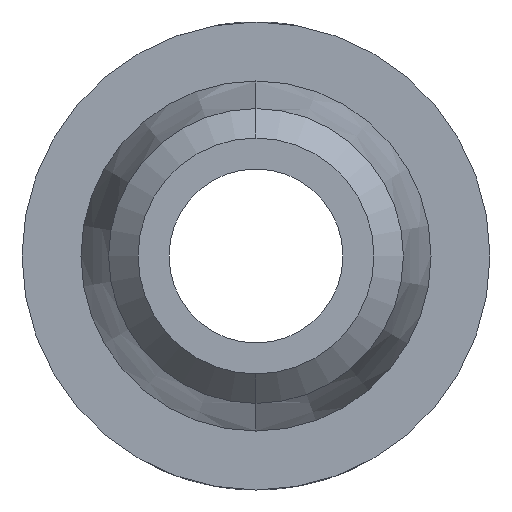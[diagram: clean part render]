
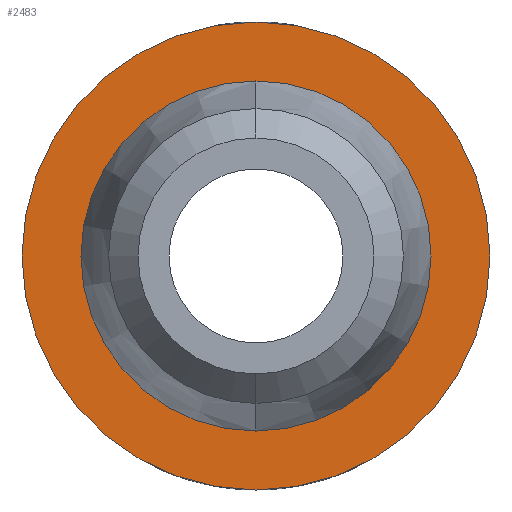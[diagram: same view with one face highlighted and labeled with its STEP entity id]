
A CAD part, left-side view. The second image highlights one B-rep face of the part: STEP entity #2483.
In plain terms, the highlighted planar face has unit normal (1, 0, 0).
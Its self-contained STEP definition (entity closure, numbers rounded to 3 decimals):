
#40=PLANE('',#2835);
#67=FACE_BOUND('',#315,.T.);
#218=FACE_OUTER_BOUND('',#314,.T.);
#314=EDGE_LOOP('',(#2036));
#315=EDGE_LOOP('',(#2037));
#906=CIRCLE('',#2836,3.175);
#907=CIRCLE('',#2837,2.375);
#1126=VERTEX_POINT('',#4597);
#1127=VERTEX_POINT('',#4599);
#1581=EDGE_CURVE('',#1126,#1126,#906,.T.);
#1582=EDGE_CURVE('',#1127,#1127,#907,.T.);
#2036=ORIENTED_EDGE('',*,*,#1581,.T.);
#2037=ORIENTED_EDGE('',*,*,#1582,.T.);
#2483=ADVANCED_FACE('',(#218,#67),#40,.T.);
#2835=AXIS2_PLACEMENT_3D('',#4596,#3167,#3168);
#2836=AXIS2_PLACEMENT_3D('',#4598,#3169,#3170);
#2837=AXIS2_PLACEMENT_3D('',#4600,#3171,#3172);
#3167=DIRECTION('center_axis',(1.,0.,0.));
#3168=DIRECTION('ref_axis',(0.,0.,-1.));
#3169=DIRECTION('center_axis',(1.,0.,0.));
#3170=DIRECTION('ref_axis',(0.,0.,-1.));
#3171=DIRECTION('center_axis',(-1.,0.,0.));
#3172=DIRECTION('ref_axis',(0.,0.,
-1.));
#4596=CARTESIAN_POINT('Origin',(-4.5,-3.213,0.));
#4597=CARTESIAN_POINT('',(-4.5,0.,3.175));
#4598=CARTESIAN_POINT('Origin',(-4.5,0.,0.));
#4599=CARTESIAN_POINT('',(-4.5,0.,2.375));
#4600=CARTESIAN_POINT('Origin',(-4.5,0.,0.));
